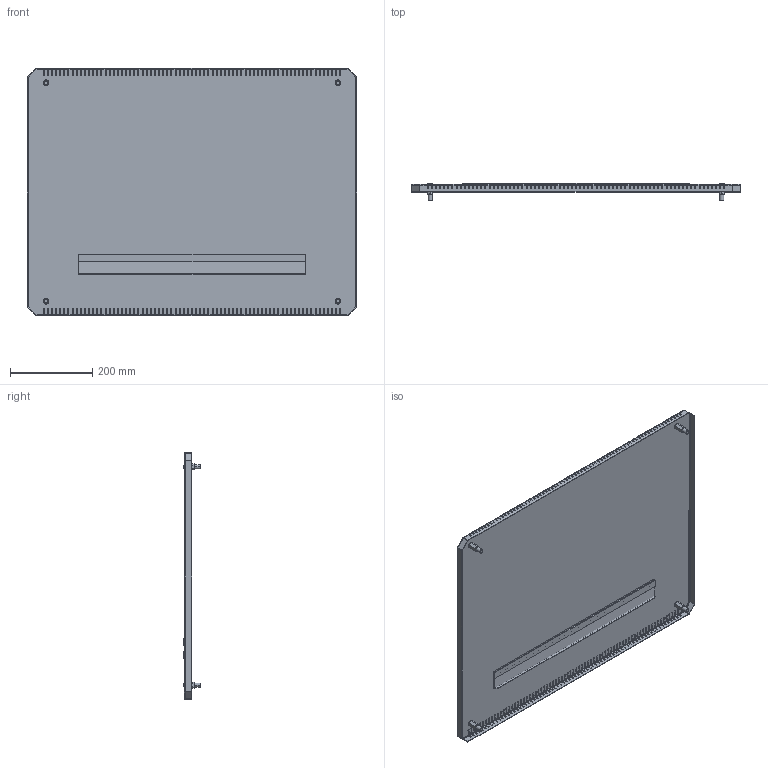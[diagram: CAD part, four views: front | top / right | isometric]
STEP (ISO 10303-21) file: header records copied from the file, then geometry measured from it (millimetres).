
FILE_DESCRIPTION (( 'STEP AP203' ), '1' );
FILE_NAME ('R 80.60 IK Ïàíåëü òåëåêîììóíèêàöèîííàÿ ïîòîëî÷íàÿ ñ ùåò. ââîäîì.STEP', '2013-01-12T09:26:55', ( 'System' ), ( '' ), 'SwSTEP 2.0', 'SolidWorks 2012', '' );
FILE_SCHEMA (( 'CONFIG_CONTROL_DESIGN' ));
Products named in the file (1): R 80.60 IK Ïàíåëü òåëåêîììóíèêàöèîííàÿ ïîòîëî÷íàÿ ñ ùåò. ââîäîì
Bounding box: 800 x 42.72 x 600 mm (x, y, z)
Volume: 791438.3 mm3; surface area: 1100623.7 mm2
Topology: 6 solids, 10 shells, 1784 faces, 4828 edges, 2776 vertices
Faces by surface type: plane 1336, cylinder 352, cone 56, bspline 16, torus 16, sphere 8
Entity records: 55591 total; most frequent: CARTESIAN_POINT 10769, ORIENTED_EDGE 9624, DIRECTION 9040, EDGE_CURVE 4812, VECTOR 3886, LINE 3886, VERTEX_POINT 2776, AXIS2_PLACEMENT_3D 2577
